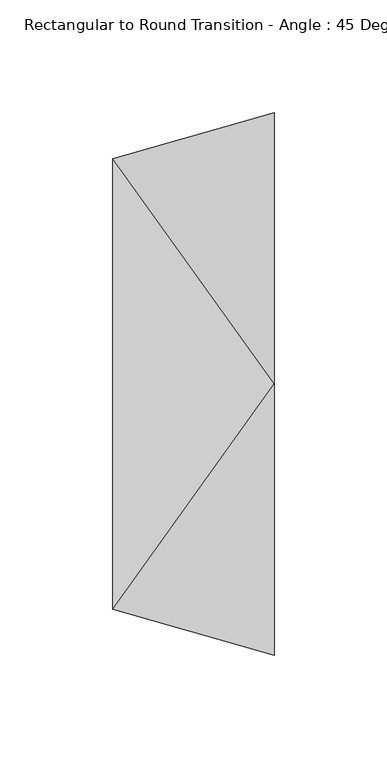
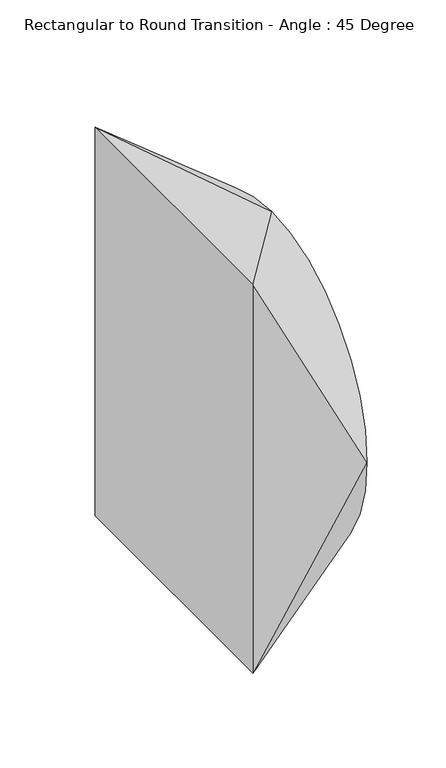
"""IFC4 building model written with IfcOpenShell, lengths in millimetres: duct fitting geometry, Rectangular to Round Transition - Angle : 45 Degree."""

from ifc_helpers import new_model, si_unit, frame, origin, place, context, project, spatial, circle_curve, source, transform, mapped, element, save
from ifc_brep_helpers import plane_surface, spline_surface, advanced_brep


def rectangular_to_round_transition_angle_45_degree_84459b07(model_context):
    return source(origin(), model_context, "Body", "AdvancedBrep", [
        advanced_brep(
        [(71.6640236, 0.0, 120.3157895), (71.6640236, -120.3157895, 0.0), (71.6640236, 0.0, -120.3157895), (71.6640236, 120.3157895, 0.0), (0.0, -100.0, 150.0), (0.0, 100.0, 150.0), (0.0, 100.0, -150.0), (0.0, -100.0, -150.0)],
        [
            (0, 1, circle_curve(frame((71.6640236, 0.0, 0.0), z_axis=(1.0, 0.0, 0.0), x_axis=(0.0, 1.0, 0.0)), 120.3157895)),
            (1, 2, circle_curve(frame((71.6640236, 0.0, 0.0), z_axis=(1.0, 0.0, 0.0), x_axis=(0.0, 1.0, 0.0)), 120.3157895)),
            (2, 3, circle_curve(frame((71.6640236, 0.0, 0.0), z_axis=(1.0, 0.0, 0.0), x_axis=(0.0, 1.0, 0.0)), 120.3157895)),
            (3, 0, circle_curve(frame((71.6640236, 0.0, 0.0), z_axis=(1.0, 0.0, 0.0), x_axis=(0.0, 1.0, 0.0)), 120.3157895)),
            (4, 5),
            (5, 6),
            (6, 7),
            (7, 4),
            (0, 4),
            (4, 1),
            (7, 1),
            (7, 2),
            (6, 2),
            (6, 3),
            (5, 3),
            (5, 0),
        ],
        [
            plane_surface(frame((71.6640236, 0.0, 0.0), z_axis=(1.0, 0.0, 0.0), x_axis=(0.0, 0.0, -1.0))),
            plane_surface(frame((0.0, 0.0, 0.0), z_axis=(-1.0, 0.0, 0.0), x_axis=(0.0, 0.0, -1.0))),
            spline_surface(2, 1, [[(0.0, -100.0, 150.0), (71.6640236, 0.0, 120.3157895)], [(0.0, -100.0, 150.0), (71.6640236, -120.3157895, 120.3157895)], [(0.0, -100.0, 150.0), (71.6640236, -120.3157895, 0.0)]], [3, 3], [2, 2], [0.0, 1.0], [0.0, 1.0], weights=[[1.0, 1.0], [0.7071067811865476, 0.7071067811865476], [1.0, 1.0]]),
            plane_surface(frame((0.0, -100.0, 0.0), z_axis=(-0.272739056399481, -0.962088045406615, 0.0), x_axis=(0.0, 0.0, -1.0))),
            spline_surface(2, 1, [[(0.0, -100.0, -150.0), (71.6640236, -120.3157895, 0.0)], [(0.0, -100.0, -150.0), (71.6640236, -120.3157895, -120.3157895)], [(0.0, -100.0, -150.0), (71.6640236, 0.0, -120.3157895)]], [3, 3], [2, 2], [0.0, 1.0], [0.0, 1.0], weights=[[1.0, 1.0], [0.7071067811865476, 0.7071067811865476], [1.0, 1.0]]),
            plane_surface(frame((0.0, 0.0, -150.0), z_axis=(0.38268343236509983, 0.0, -0.9238795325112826), x_axis=(0.0, 1.0, 0.0))),
            spline_surface(2, 1, [[(0.0, 100.0, -150.0), (71.6640236, 0.0, -120.3157895)], [(0.0, 100.0, -150.0), (71.6640236, 120.3157895, -120.3157895)], [(0.0, 100.0, -150.0), (71.6640236, 120.3157895, 0.0)]], [3, 3], [2, 2], [0.0, 1.0], [0.0, 1.0], weights=[[1.0, 1.0], [0.7071067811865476, 0.7071067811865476], [1.0, 1.0]]),
            plane_surface(frame((0.0, 100.0, 0.0), z_axis=(-0.27273905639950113, 0.9620880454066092, 0.0), x_axis=(0.0, 0.0, 1.0))),
            spline_surface(2, 1, [[(0.0, 100.0, 150.0), (71.6640236, 120.3157895, 0.0)], [(0.0, 100.0, 150.0), (71.6640236, 120.3157895, 120.3157895)], [(0.0, 100.0, 150.0), (71.6640236, 0.0, 120.3157895)]], [3, 3], [2, 2], [0.0, 1.0], [0.0, 1.0], weights=[[1.0, 1.0], [0.7071067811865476, 0.7071067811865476], [1.0, 1.0]]),
            plane_surface(frame((0.0, 0.0, 150.0), z_axis=(0.3826834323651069, 0.0, 0.9238795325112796), x_axis=(0.0, -1.0, 0.0))),
        ],
        [
            (0, [[1, 2, 3, 4]]),
            (1, [[5, 6, 7, 8]]),
            (2, [[-1, 9, 10]]),
            (3, [[-8, 11, -10]]),
            (4, [[-2, -11, 12]]),
            (5, [[-7, 13, -12]]),
            (6, [[-3, -13, 14]]),
            (7, [[-6, 15, -14]]),
            (8, [[-4, -15, 16]]),
            (9, [[-5, -9, -16]]),
        ],
    ),
    ])


if __name__ == "__main__":
    model = new_model("IFC4")
    model_context = context("Model", 3, world=origin())
    ifc_project = project(units=[si_unit("LENGTHUNIT", "METRE", prefix="MILLI")], contexts=[model_context])
    site = spatial("IfcSite", under=ifc_project)
    building = spatial("IfcBuilding", under=site)
    placement = place(None, origin())
    rectangular_to_round_transition_angle_45_degree_shape = rectangular_to_round_transition_angle_45_degree_84459b07(model_context)
    element("IfcDuctFitting", 1, ObjectType="Rectangular to Round Transition - Angle : 45 Degree", at=placement, inside=building, context=model_context, shape_type="MappedRepresentation", body=[
        mapped(rectangular_to_round_transition_angle_45_degree_shape, transform((0.0, 0.0, 0.0), x_axis=(1.0, 0.0, 0.0), y_axis=(0.0, 1.0, 0.0), z_axis=(0.0, 0.0, 1.0))),
    ])
    save(model, "model.ifc")
